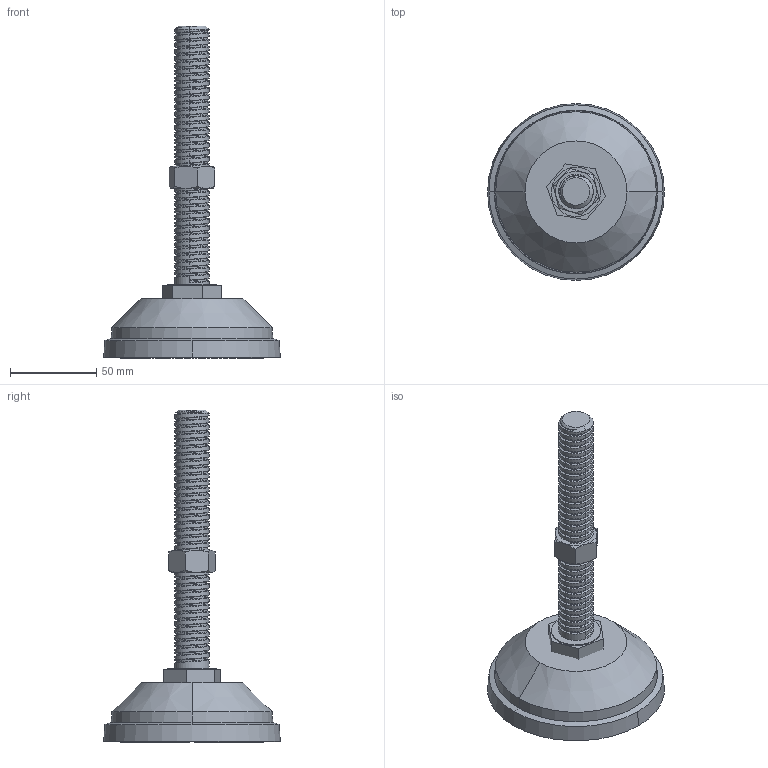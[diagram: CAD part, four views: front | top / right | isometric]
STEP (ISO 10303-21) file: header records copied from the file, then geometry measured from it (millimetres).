
FILE_DESCRIPTION (( 'STEP AP203' ), '1' );
FILE_NAME ('FS106-2-20-L2.STEP', '2015-11-24T02:16:11', ( '' ), ( '' ), 'SwSTEP 2.0', 'SolidWorks 2014', '' );
FILE_SCHEMA (( 'CONFIG_CONTROL_DESIGN' ));
Length unit declared in the file: millimetre
Products named in the file (5): M16螺帽-5; 100橡膠止滑墊-1-1; 100圓腳座-3-1; DS-M20X150L-12調整螺絲(壓花)-1; FS106-2-20-L2
Assembly tree (4 placements, depth 2):
  FS106-2-20-L2
    M16螺帽-5
    100橡膠止滑墊-1-1
    100圓腳座-3-1
    DS-M20X150L-12調整螺絲(壓花)-1
Bounding box: 102.48 x 102.48 x 192.5 mm (x, y, z)
Volume: 239252.8 mm3; surface area: 65814.3 mm2
Topology: 4 solids, 4 shells, 542 faces, 1441 edges, 884 vertices
Faces by surface type: plane 288, cylinder 145, cone 56, bspline 53
Entity records: 27665 total; most frequent: CARTESIAN_POINT 14280, ORIENTED_EDGE 2870, DIRECTION 2594, EDGE_CURVE 1435, AXIS2_PLACEMENT_3D 952, VERTEX_POINT 884, LINE 690, VECTOR 690
